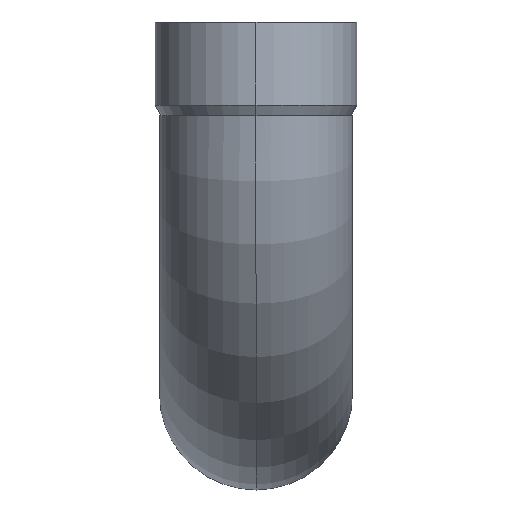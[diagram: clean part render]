
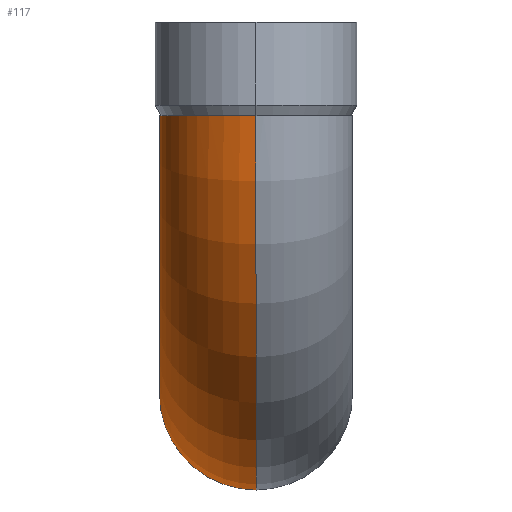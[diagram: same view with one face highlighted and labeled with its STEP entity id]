
A CAD part, left-side view. The second image highlights one B-rep face of the part: STEP entity #117.
In plain terms, the highlighted toroidal (fillet/blend) face has major radius 120 mm and minor radius 40 mm.
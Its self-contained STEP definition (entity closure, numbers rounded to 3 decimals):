
#44=CARTESIAN_POINT('',(22.035,0.,0.0));
#45=DIRECTION('',(0.0,-1.0,0.0));
#46=DIRECTION('',(0.0,0.0,-1.0));
#47=AXIS2_PLACEMENT_3D('',#44,#45,#46);
#48=TOROIDAL_SURFACE('',#47,120.0,40.0);
#49=CARTESIAN_POINT('',(-137.893,0.,-4.8));
#50=VERTEX_POINT('',#49);
#51=CARTESIAN_POINT('',(22.035,0.,-160.0));
#52=VERTEX_POINT('',#51);
#53=CARTESIAN_POINT('',(22.035,0.,0.0));
#54=DIRECTION('',(0.0,-1.0,0.0));
#55=DIRECTION('',(0.0,0.0,-1.0));
#56=AXIS2_PLACEMENT_3D('',#53,#54,#55);
#57=CIRCLE('',#56,160.0);
#58=EDGE_CURVE('',#50,#52,#57,.T.);
#59=ORIENTED_EDGE('',*,*,#58,.F.);
#60=CARTESIAN_POINT('',(-57.821,0.,-4.8));
#61=VERTEX_POINT('',#60);
#62=CARTESIAN_POINT('',(-137.893,0.,-4.8));
#63=CARTESIAN_POINT('',(-137.893,2.468,-4.8));
#64=CARTESIAN_POINT('',(-137.649,5.163,-4.8));
#65=CARTESIAN_POINT('',(-136.599,10.441,-4.8));
#66=CARTESIAN_POINT('',(-135.793,13.025,-4.8));
#67=CARTESIAN_POINT('',(-133.903,17.585,-4.8));
#68=CARTESIAN_POINT('',(-132.646,19.982,-4.8));
#69=CARTESIAN_POINT('',(-129.655,24.458,-4.8));
#70=CARTESIAN_POINT('',(-127.921,26.536,-4.8));
#71=CARTESIAN_POINT('',(-124.429,30.027,-4.8));
#72=CARTESIAN_POINT('',(-122.349,31.761,-4.8));
#73=CARTESIAN_POINT('',(-117.871,34.752,-4.8));
#74=CARTESIAN_POINT('',(-115.472,36.009,-4.8));
#75=CARTESIAN_POINT('',(-110.908,37.899,-4.8));
#76=CARTESIAN_POINT('',(-108.322,38.706,-4.8));
#77=CARTESIAN_POINT('',(-103.038,39.756,-4.8));
#78=CARTESIAN_POINT('',(-100.339,40.,-4.8));
#79=CARTESIAN_POINT('',(-95.398,40.,-4.8));
#80=CARTESIAN_POINT('',(-92.699,39.756,-4.8));
#81=CARTESIAN_POINT('',(-87.413,38.705,-4.8));
#82=CARTESIAN_POINT('',(-84.826,37.898,-4.8));
#83=CARTESIAN_POINT('',(-80.26,36.008,-4.8));
#84=CARTESIAN_POINT('',(-77.859,34.751,-4.8));
#85=CARTESIAN_POINT('',(-73.378,31.759,-4.8));
#86=CARTESIAN_POINT('',(-71.296,30.024,-4.8));
#87=CARTESIAN_POINT('',(-67.801,26.532,-4.8));
#88=CARTESIAN_POINT('',(-66.066,24.454,-4.8));
#89=CARTESIAN_POINT('',(-63.072,19.978,-4.8));
#90=CARTESIAN_POINT('',(-61.813,17.58,-4.8));
#91=CARTESIAN_POINT('',(-59.923,13.02,-4.8));
#92=CARTESIAN_POINT('',(-59.115,10.438,-4.8));
#93=CARTESIAN_POINT('',(-58.065,5.162,-4.8));
#94=CARTESIAN_POINT('',(-57.821,2.467,-4.8));
#95=CARTESIAN_POINT('',(-57.821,0.,-4.8));
#96=B_SPLINE_CURVE_WITH_KNOTS('',3,(#62,#63,#64,#65,#66,#67,#68,#69,#70,#71,#72,#73,#74,#75,#76,#77,#78,#79,#80,#81,#82,#83,#84,#85,#86,#87,#88,#89,#90,#91,#92,#93,#94,#95),.UNSPECIFIED.,.F.,.U.,(4,2,2,2,2,2,2,2,2,2,2,2,2,2,2,2,4),(0.0,0.74,1.481,2.221,2.962,3.703,4.443,5.185,5.926,6.667,7.408,8.15,8.891,9.632,10.373,11.113,11.853),.UNSPECIFIED.);
#97=EDGE_CURVE('',#50,#61,#96,.T.);
#98=ORIENTED_EDGE('',*,*,#97,.T.);
#99=CARTESIAN_POINT('',(22.035,0.,-80.0));
#100=VERTEX_POINT('',#99);
#101=CARTESIAN_POINT('',(22.035,0.,0.0));
#102=DIRECTION('',(0.0,1.0,0.0));
#103=DIRECTION('',(0.0,0.0,-1.0));
#104=AXIS2_PLACEMENT_3D('',#101,#102,#103);
#105=CIRCLE('',#104,80.0);
#106=EDGE_CURVE('',#100,#61,#105,.T.);
#107=ORIENTED_EDGE('',*,*,#106,.F.);
#108=CARTESIAN_POINT('',(22.035,0.,-120.0));
#109=DIRECTION('',(-1.0,0.0,0.0));
#110=DIRECTION('',(0.0,0.0,-1.0));
#111=AXIS2_PLACEMENT_3D('',#108,#109,#110);
#112=CIRCLE('',#111,40.0);
#113=EDGE_CURVE('',#100,#52,#112,.T.);
#114=ORIENTED_EDGE('',*,*,#113,.T.);
#115=EDGE_LOOP('',(#59,#98,#107,#114));
#116=FACE_OUTER_BOUND('',#115,.T.);
#117=ADVANCED_FACE('',(#116),#48,.T.);
